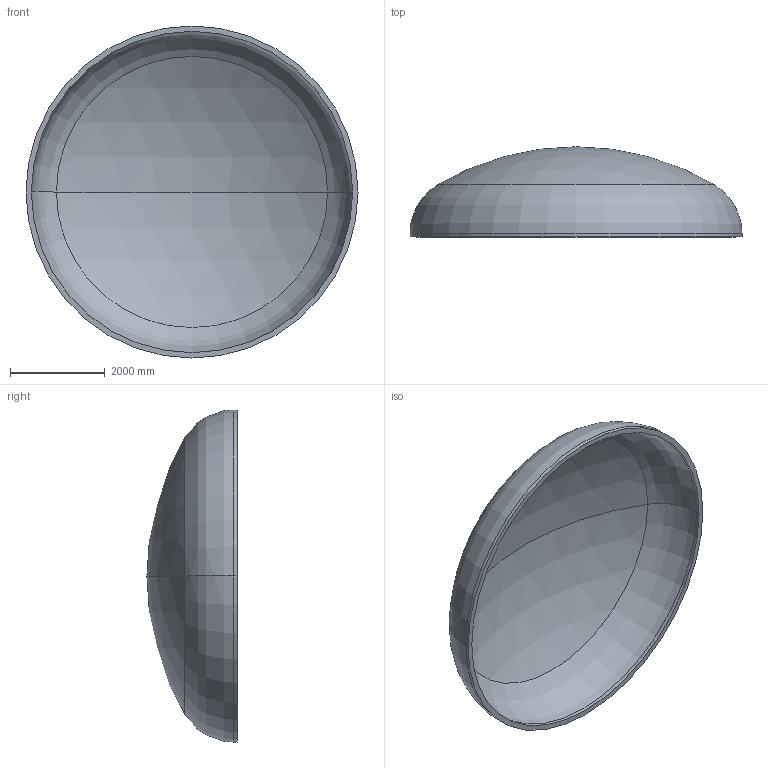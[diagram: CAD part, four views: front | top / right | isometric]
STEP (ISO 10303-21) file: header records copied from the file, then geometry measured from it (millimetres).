
FILE_DESCRIPTION (( 'STEP AP203' ), '1' );
FILE_NAME ('DIN 28013 Korbbogenform_-_Boden DIN 28013 - 7000 x 75 - I - s=112.step', '2016-07-04T10:50:33', ( '' ), ( '' ), 'SwSTEP 2.0', 'SolidWorks 2013', '' );
FILE_SCHEMA (( 'CONFIG_CONTROL_DESIGN' ));
Length unit declared in the file: millimetre
Products named in the file (1): DIN 28013 Korbbogenform_-_Boden DIN 28013 - 7000 x 75 - I - s=112
Bounding box: 7000 x 1900.67 x 7000 mm (x, y, z)
Volume: 6028821976.5 mm3; surface area: 110107367 mm2
Topology: 1 solids, 1 shells, 13 faces, 24 edges, 14 vertices
Faces by surface type: torus 4, cylinder 4, sphere 4, plane 1
Entity records: 407 total; most frequent: DIRECTION 72, CARTESIAN_POINT 52, ORIENTED_EDGE 48, AXIS2_PLACEMENT_3D 34, EDGE_CURVE 24, CIRCLE 20, VERTEX_POINT 14, EDGE_LOOP 14
